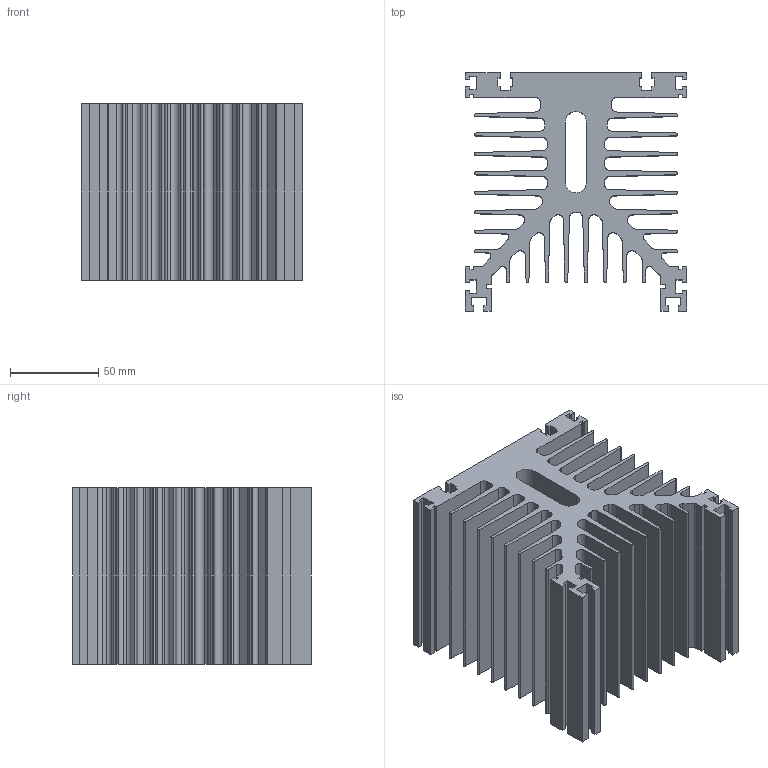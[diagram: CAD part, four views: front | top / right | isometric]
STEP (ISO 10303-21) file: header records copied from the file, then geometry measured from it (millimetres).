
FILE_DESCRIPTION (( 'STEP AP214' ), '1' );
FILE_NAME ('PR223.STEP', '2011-05-24T13:48:27', ( 'Alutronic' ), ( 'Alutronic' ), 'SwSTEP 2.0', 'SolidWorks 2011', '' );
FILE_SCHEMA (( 'AUTOMOTIVE_DESIGN' ));
Length unit declared in the file: millimetre
Products named in the file (1): PR223
Bounding box: 125.1 x 135 x 100 mm (x, y, z)
Volume: 661695.1 mm3; surface area: 250318.7 mm2
Topology: 1 solids, 1 shells, 282 faces, 840 edges, 560 vertices
Faces by surface type: plane 189, cylinder 93
Entity records: 12590 total; most frequent: CARTESIAN_POINT 1683, ORIENTED_EDGE 1680, DIRECTION 1592, EDGE_CURVE 840, VECTOR 654, LINE 654, VERTEX_POINT 560, AXIS2_PLACEMENT_3D 469
